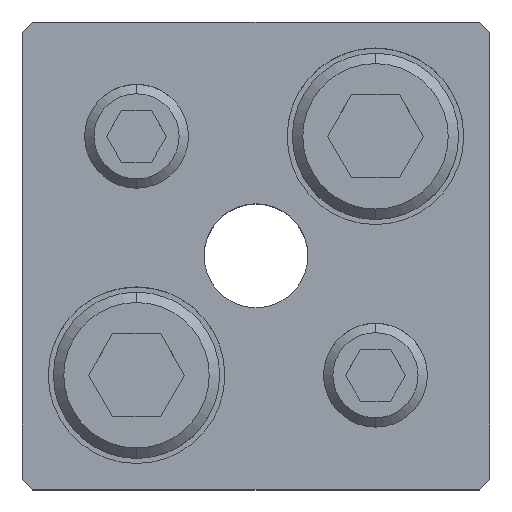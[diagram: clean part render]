
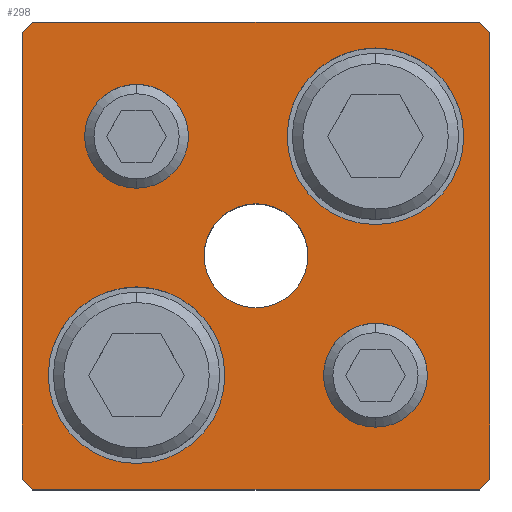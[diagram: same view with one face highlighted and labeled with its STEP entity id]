
A CAD part, top view. The second image highlights one B-rep face of the part: STEP entity #298.
In plain terms, the highlighted planar face has unit normal (0, 0, 1).
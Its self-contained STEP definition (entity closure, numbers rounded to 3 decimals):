
#153=PLANE('',#2436);
#220=FACE_BOUND('',#611,.T.);
#221=FACE_BOUND('',#612,.T.);
#222=FACE_BOUND('',#613,.T.);
#223=FACE_BOUND('',#614,.T.);
#224=FACE_BOUND('',#615,.T.);
#225=FACE_BOUND('',#616,.T.);
#298=ADVANCED_FACE('',(#220,#221,#222,#223,#224,#225),#153,.T.);
#611=EDGE_LOOP('',(#1281,#1282,#1283,#1284,#1285,#1286,#1287,#1288));
#612=EDGE_LOOP('',(#1289,#1290));
#613=EDGE_LOOP('',(#1291,#1292));
#614=EDGE_LOOP('',(#1293,#1294));
#615=EDGE_LOOP('',(#1295,#1296));
#616=EDGE_LOOP('',(#1297,#1298));
#759=LINE('',#3542,#941);
#760=LINE('',#3545,#942);
#761=LINE('',#3547,#943);
#762=LINE('',#3549,#944);
#763=LINE('',#3551,#945);
#764=LINE('',#3553,#946);
#765=LINE('',#3555,#947);
#766=LINE('',#3557,#948);
#941=VECTOR('',#2839,1.);
#942=VECTOR('',#2840,1.);
#943=VECTOR('',#2841,1.);
#944=VECTOR('',#2842,1.);
#945=VECTOR('',#2843,1.);
#946=VECTOR('',#2844,1.);
#947=VECTOR('',#2845,1.);
#948=VECTOR('',#2846,1.);
#1281=ORIENTED_EDGE('',*,*,#2001,.T.);
#1282=ORIENTED_EDGE('',*,*,#2002,.T.);
#1283=ORIENTED_EDGE('',*,*,#2003,.T.);
#1284=ORIENTED_EDGE('',*,*,#2004,.T.);
#1285=ORIENTED_EDGE('',*,*,#2005,.T.);
#1286=ORIENTED_EDGE('',*,*,#2006,.T.);
#1287=ORIENTED_EDGE('',*,*,#2007,.T.);
#1288=ORIENTED_EDGE('',*,*,#2008,.T.);
#1289=ORIENTED_EDGE('',*,*,#2009,.F.);
#1290=ORIENTED_EDGE('',*,*,#2010,.F.);
#1291=ORIENTED_EDGE('',*,*,#2011,.F.);
#1292=ORIENTED_EDGE('',*,*,#2012,.F.);
#1293=ORIENTED_EDGE('',*,*,#1987,.F.);
#1294=ORIENTED_EDGE('',*,*,#1983,.F.);
#1295=ORIENTED_EDGE('',*,*,#1981,.F.);
#1296=ORIENTED_EDGE('',*,*,#1977,.F.);
#1297=ORIENTED_EDGE('',*,*,#2013,.T.);
#1298=ORIENTED_EDGE('',*,*,#2014,.T.);
#1751=VERTEX_POINT('',#3493);
#1752=VERTEX_POINT('',#3494);
#1755=VERTEX_POINT('',#3506);
#1756=VERTEX_POINT('',#3507);
#1767=VERTEX_POINT('',#3543);
#1768=VERTEX_POINT('',#3544);
#1769=VERTEX_POINT('',#3546);
#1770=VERTEX_POINT('',#3548);
#1771=VERTEX_POINT('',#3550);
#1772=VERTEX_POINT('',#3552);
#1773=VERTEX_POINT('',#3554);
#1774=VERTEX_POINT('',#3556);
#1775=VERTEX_POINT('',#3559);
#1776=VERTEX_POINT('',#3560);
#1777=VERTEX_POINT('',#3563);
#1778=VERTEX_POINT('',#3564);
#1779=VERTEX_POINT('',#3567);
#1780=VERTEX_POINT('',#3568);
#1977=EDGE_CURVE('',#1751,#1752,#2247,.T.);
#1981=EDGE_CURVE('',#1752,#1751,#2249,.T.);
#1983=EDGE_CURVE('',#1755,#1756,#2251,.T.);
#1987=EDGE_CURVE('',#1756,#1755,#2253,.T.);
#2001=EDGE_CURVE('',#1767,#1768,#759,.T.);
#2002=EDGE_CURVE('',#1768,#1769,#760,.T.);
#2003=EDGE_CURVE('',#1769,#1770,#761,.T.);
#2004=EDGE_CURVE('',#1770,#1771,#762,.T.);
#2005=EDGE_CURVE('',#1771,#1772,#763,.T.);
#2006=EDGE_CURVE('',#1772,#1773,#764,.T.);
#2007=EDGE_CURVE('',#1773,#1774,#765,.T.);
#2008=EDGE_CURVE('',#1774,#1767,#766,.T.);
#2009=EDGE_CURVE('',#1775,#1776,#2263,.T.);
#2010=EDGE_CURVE('',#1776,#1775,#2264,.T.);
#2011=EDGE_CURVE('',#1777,#1778,#2265,.T.);
#2012=EDGE_CURVE('',#1778,#1777,#2266,.T.);
#2013=EDGE_CURVE('',#1779,#1780,#2267,.T.);
#2014=EDGE_CURVE('',#1780,#1779,#2268,.T.);
#2247=CIRCLE('',#2404,5.);
#2249=CIRCLE('',#2407,5.);
#2251=CIRCLE('',#2411,5.);
#2253=CIRCLE('',#2414,5.);
#2263=CIRCLE('',#2430,8.5);
#2264=CIRCLE('',#2431,8.5);
#2265=CIRCLE('',#2432,8.5);
#2266=CIRCLE('',#2433,8.5);
#2267=CIRCLE('',#2434,5.);
#2268=CIRCLE('',#2435,5.);
#2404=AXIS2_PLACEMENT_3D('',#3492,#2779,#2780);
#2407=AXIS2_PLACEMENT_3D('',#3501,#2787,#2788);
#2411=AXIS2_PLACEMENT_3D('',#3505,#2795,#2796);
#2414=AXIS2_PLACEMENT_3D('',#3514,#2803,#2804);
#2430=AXIS2_PLACEMENT_3D('',#3558,#2847,#2848);
#2431=AXIS2_PLACEMENT_3D('',#3561,#2849,#2850);
#2432=AXIS2_PLACEMENT_3D('',#3562,#2851,#2852);
#2433=AXIS2_PLACEMENT_3D('',#3565,#2853,#2854);
#2434=AXIS2_PLACEMENT_3D('',#3566,#2855,#2856);
#2435=AXIS2_PLACEMENT_3D('',#3569,#2857,#2858);
#2436=AXIS2_PLACEMENT_3D('',#3570,#2859,#2860);
#2779=DIRECTION('',(0.,0.,1.));
#2780=DIRECTION('',(-1.,0.,0.));
#2787=DIRECTION('',(0.,0.,1.));
#2788=DIRECTION('',(1.,0.,0.));
#2795=DIRECTION('',(0.,0.,1.));
#2796=DIRECTION('',(-1.,0.,0.));
#2803=DIRECTION('',(0.,0.,1.));
#2804=DIRECTION('',(1.,0.,0.));
#2839=DIRECTION('',(0.707,0.707,0.));
#2840=DIRECTION('',(0.,1.,0.));
#2841=DIRECTION('',(-0.707,0.707,0.));
#2842=DIRECTION('',(-1.,0.,0.));
#2843=DIRECTION('',(-0.707,-0.707,0.));
#2844=DIRECTION('',(0.,-1.,0.));
#2845=DIRECTION('',(0.707,-0.707,0.));
#2846=DIRECTION('',(1.,0.,0.));
#2847=DIRECTION('',(0.,0.,1.));
#2848=DIRECTION('',(1.,0.,0.));
#2849=DIRECTION('',(0.,0.,1.));
#2850=DIRECTION('',(-1.,0.,0.));
#2851=DIRECTION('',(0.,0.,1.));
#2852=DIRECTION('',(1.,0.,0.));
#2853=DIRECTION('',(0.,0.,1.));
#2854=DIRECTION('',(-1.,0.,0.));
#2855=DIRECTION('',(0.,0.,-1.));
#2856=DIRECTION('',(-1.,0.,0.));
#2857=DIRECTION('',(0.,0.,-1.));
#2858=DIRECTION('',(1.,0.,0.));
#2859=DIRECTION('',(0.,0.,1.));
#2860=DIRECTION('',(-1.,0.,0.));
#3492=CARTESIAN_POINT('',(11.5,-11.5,30.));
#3493=CARTESIAN_POINT('',(11.5,-16.5,30.));
#3494=CARTESIAN_POINT('',(11.5,-6.5,30.));
#3501=CARTESIAN_POINT('',(11.5,-11.5,30.));
#3505=CARTESIAN_POINT('',(-11.5,11.5,30.));
#3506=CARTESIAN_POINT('',(-11.5,6.5,30.));
#3507=CARTESIAN_POINT('',(-11.5,16.5,30.));
#3514=CARTESIAN_POINT('',(-11.5,11.5,30.));
#3542=CARTESIAN_POINT('',(21.5,-22.5,30.));
#3543=CARTESIAN_POINT('',(21.5,-22.5,30.));
#3544=CARTESIAN_POINT('',(22.5,-21.5,30.));
#3545=CARTESIAN_POINT('',(22.5,21.5,30.));
#3546=CARTESIAN_POINT('',(22.5,21.5,30.));
#3547=CARTESIAN_POINT('',(22.5,21.5,30.));
#3548=CARTESIAN_POINT('',(21.5,22.5,30.));
#3549=CARTESIAN_POINT('',(-21.5,22.5,30.));
#3550=CARTESIAN_POINT('',(-21.5,22.5,30.));
#3551=CARTESIAN_POINT('',(-21.5,22.5,30.));
#3552=CARTESIAN_POINT('',(-22.5,21.5,30.));
#3553=CARTESIAN_POINT('',(-22.5,21.5,30.));
#3554=CARTESIAN_POINT('',(-22.5,-21.5,30.));
#3555=CARTESIAN_POINT('',(-22.5,-21.5,30.));
#3556=CARTESIAN_POINT('',(-21.5,-22.5,30.));
#3557=CARTESIAN_POINT('',(-21.5,-22.5,30.));
#3558=CARTESIAN_POINT('',(11.5,11.5,30.));
#3559=CARTESIAN_POINT('',(11.5,20.,30.));
#3560=CARTESIAN_POINT('',(11.5,3.,30.));
#3561=CARTESIAN_POINT('',(11.5,11.5,30.));
#3562=CARTESIAN_POINT('',(-11.5,-11.5,30.));
#3563=CARTESIAN_POINT('',(-11.5,-3.,30.));
#3564=CARTESIAN_POINT('',(-11.5,-20.,30.));
#3565=CARTESIAN_POINT('',(-11.5,-11.5,30.));
#3566=CARTESIAN_POINT('',(0.,0.,30.));
#3567=CARTESIAN_POINT('',(0.,5.,30.));
#3568=CARTESIAN_POINT('',(0.,-5.,30.));
#3569=CARTESIAN_POINT('',(0.,0.,30.));
#3570=CARTESIAN_POINT('',(21.5,-22.5,30.));
